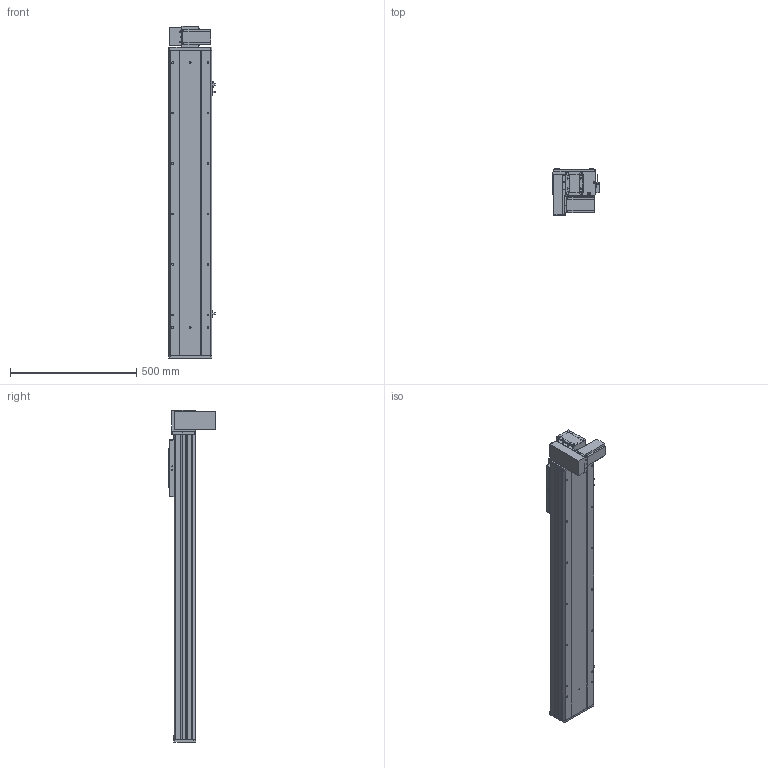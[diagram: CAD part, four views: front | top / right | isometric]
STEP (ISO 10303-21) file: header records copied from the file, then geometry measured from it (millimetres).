
FILE_DESCRIPTION (( 'STEP AP203' ), '1' );
FILE_NAME ('Y170CB-D105-S900-BM-P400W.STEP', '2020-02-20T06:23:34', ( '微软用户' ), ( '微软中国' ), 'SwSTEP 2.0', 'SolidWorks 2017', '' );
FILE_SCHEMA (( 'CONFIG_CONTROL_DESIGN' ));
Length unit declared in the file: millimetre
Products named in the file (18): 0B-萇儂楊擘啣; 70B喘謫眊----; 70C-雄赽釱-奻-; san松下电机400不带刹车----; Y170CB-D105-S900-BM-P400W; 0C--雄赽釱俋欶-170; 70CB-掛极-; 70CB-詩湍--; --70CB --喘謫眊楊擘啣-; Y100-135俋离換覜ん--; 70CB-耜裔啣-; Y170CB-陔俋离換覜結え---; 70C--詩湍揤踡え-; Y1埴倛裔; 70CB--耜裔; 17B-耜蚾蟀諉啣----; B-源倛裔啣; 00B-俋欶BM--163
Assembly tree (21 placements, depth 2):
  Y170CB-D105-S900-BM-P400W
    B-源倛裔啣
    0B-萇儂楊擘啣
    san松下电机400不带刹车----
    70CB-掛极-
    --70CB --喘謫眊楊擘啣-
    70CB-耜裔啣-  x2
    70C--詩湍揤踡え-  x2
    70CB--耜裔
    70C-雄赽釱-奻-
    0C--雄赽釱俋欶-170
    70CB-詩湍--
    Y100-135俋离換覜ん--  x3
    Y170CB-陔俋离換覜結え---
    Y1埴倛裔
    17B-耜蚾蟀諉啣----
    00B-俋欶BM--163
    70B喘謫眊----
Bounding box: 183.5 x 184 x 1316 mm (x, y, z)
Volume: 6145180.3 mm3; surface area: 2200642.7 mm2
Topology: 21 solids, 21 shells, 1007 faces, 2693 edges, 1786 vertices
Faces by surface type: cylinder 521, plane 462, cone 24
Entity records: 32036 total; most frequent: CARTESIAN_POINT 5856, DIRECTION 5210, ORIENTED_EDGE 4868, EDGE_CURVE 2434, AXIS2_PLACEMENT_3D 1908, VERTEX_POINT 1616, LINE 1394, VECTOR 1394
